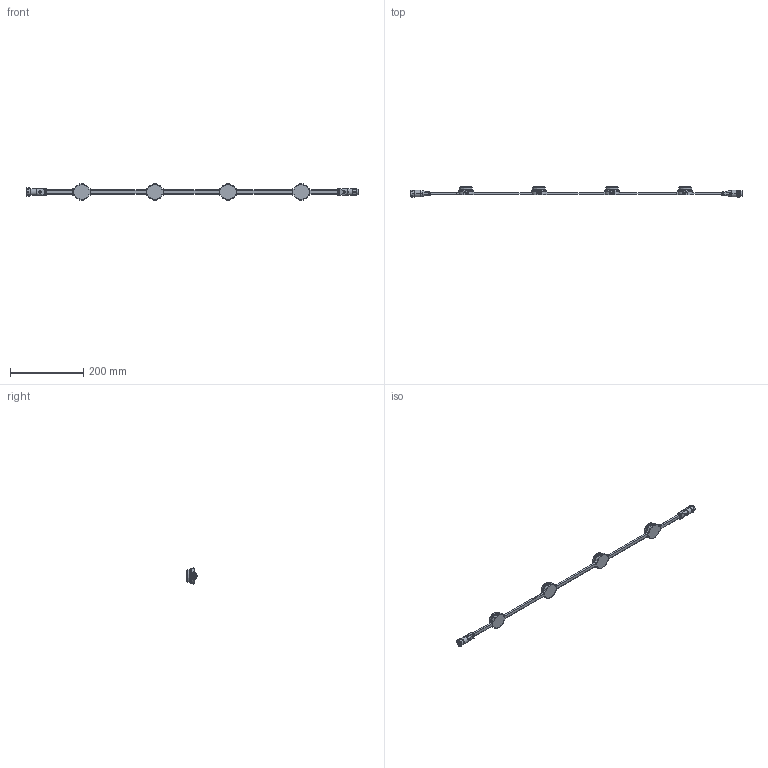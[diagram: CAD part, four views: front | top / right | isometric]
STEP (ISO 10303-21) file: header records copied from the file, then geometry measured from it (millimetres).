
FILE_DESCRIPTION (( 'STEP AP214' ), '1' );
FILE_NAME ('DiGi XT3 & 6 - Flat.STEP', '2025-08-19T07:19:11', ( '' ), ( '' ), 'SwSTEP 2.0', 'SolidWorks 2025', '' );
FILE_SCHEMA (( 'AUTOMOTIVE_DESIGN' ));
Length unit declared in the file: millimetre
Products named in the file (6): DiGi Module XT3 & 6 - Body_XT3 RGBW; Part9^DiGi XT3 & 6; DiGi Module XT3 & 6 - Cover - Flat; M16 3p Flat mold - Male; DiGi XT3 & 6 - Flat; M16 3p Flat mold - Female
Assembly tree (11 placements, depth 2):
  DiGi XT3 & 6 - Flat
    DiGi Module XT3 & 6 - Body_XT3 RGBW  x4
    Part9^DiGi XT3 & 6
    M16 3p Flat mold - Female
    M16 3p Flat mold - Male
    DiGi Module XT3 & 6 - Cover - Flat  x4
Bounding box: 907.71 x 27.76 x 43.79 mm (x, y, z)
Volume: 159159.2 mm3; surface area: 63303.7 mm2
Topology: 31 solids, 31 shells, 2615 faces, 6183 edges, 3615 vertices
Faces by surface type: bspline 1060, plane 638, cylinder 595, cone 196, sphere 72, torus 54
Full cylindrical faces by diameter (mm): 1.6 x3, 10.9 x1, 11.8 x1, 14.25 x1, 14.8 x1, 15.2 x1, 31.6 x4, 32 x4, 42 x4
Entity records: 88838 total; most frequent: CARTESIAN_POINT 52937, ORIENTED_EDGE 6032, DIRECTION 4244, EDGE_CURVE 3016, VERTEX_POINT 1815, AXIS2_PLACEMENT_3D 1660, EDGE_LOOP 1381, FACE_OUTER_BOUND 1318
